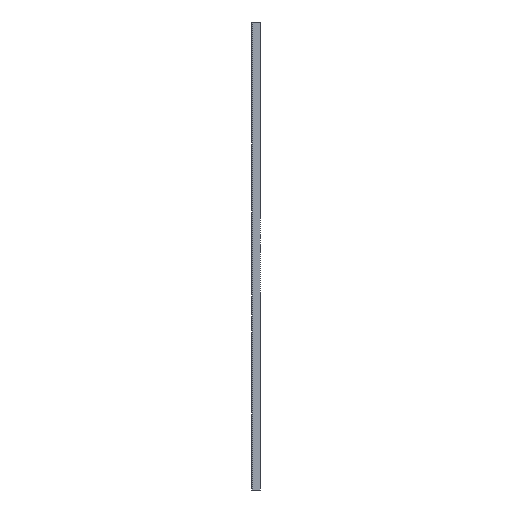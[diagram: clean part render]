
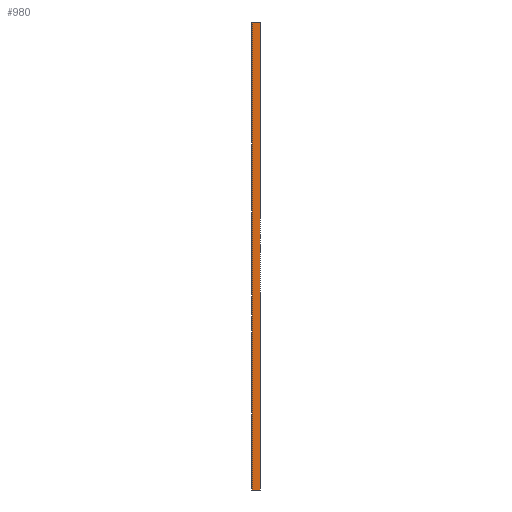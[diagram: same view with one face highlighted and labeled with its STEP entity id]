
A CAD part, left-side view. The second image highlights one B-rep face of the part: STEP entity #980.
In plain terms, the highlighted planar face has unit normal (-1, 0, 0).
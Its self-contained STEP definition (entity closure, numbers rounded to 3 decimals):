
#3 = AXIS2_PLACEMENT_3D ( 'NONE', #378, #111, #909 ) ;
#11 = CARTESIAN_POINT ( 'NONE',  ( -461.5, -20., 150. ) ) ;
#27 = CARTESIAN_POINT ( 'NONE',  ( -461.5, -20., -900. ) ) ;
#49 = FACE_OUTER_BOUND ( 'NONE', #331, .T. ) ;
#81 = VECTOR ( 'NONE', #359, 1000. ) ;
#111 = DIRECTION ( 'NONE',  ( -1., 0., 0. ) ) ;
#128 = CARTESIAN_POINT ( 'NONE',  ( -461.5, 0., 150. ) ) ;
#142 = VECTOR ( 'NONE', #880, 1000. ) ;
#145 = EDGE_CURVE ( 'NONE', #522, #338, #729, .T. ) ;
#183 = VERTEX_POINT ( 'NONE', #562 ) ;
#199 = DIRECTION ( 'NONE',  ( 0., 1., 0. ) ) ;
#286 = EDGE_CURVE ( 'NONE', #522, #183, #982, .T. ) ;
#328 = EDGE_CURVE ( 'NONE', #338, #1020, #693, .T. ) ;
#331 = EDGE_LOOP ( 'NONE', ( #868, #576, #580, #719 ) ) ;
#338 = VERTEX_POINT ( 'NONE', #884 ) ;
#359 = DIRECTION ( 'NONE',  ( 0., 1., 0. ) ) ;
#378 = CARTESIAN_POINT ( 'NONE',  ( -461.5, -20., -900. ) ) ;
#448 = VECTOR ( 'NONE', #199, 1000. ) ;
#472 = CARTESIAN_POINT ( 'NONE',  ( -461.5, -20., -900. ) ) ;
#522 = VERTEX_POINT ( 'NONE', #577 ) ;
#562 = CARTESIAN_POINT ( 'NONE',  ( -461.5, 0., -900. ) ) ;
#576 = ORIENTED_EDGE ( 'NONE', *, *, #286, .F. ) ;
#577 = CARTESIAN_POINT ( 'NONE',  ( -461.5, -20., -900. ) ) ;
#580 = ORIENTED_EDGE ( 'NONE', *, *, #145, .T. ) ;
#633 = CARTESIAN_POINT ( 'NONE',  ( -461.5, 0., -900. ) ) ;
#655 = VECTOR ( 'NONE', #987, 1000. ) ;
#693 = LINE ( 'NONE', #11, #81 ) ;
#719 = ORIENTED_EDGE ( 'NONE', *, *, #328, .T. ) ;
#729 = LINE ( 'NONE', #472, #655 ) ;
#868 = ORIENTED_EDGE ( 'NONE', *, *, #908, .F. ) ;
#880 = DIRECTION ( 'NONE',  ( 0., 0., 1. ) ) ;
#884 = CARTESIAN_POINT ( 'NONE',  ( -461.5, -20., 150. ) ) ;
#892 = LINE ( 'NONE', #633, #142 ) ;
#894 = PLANE ( 'NONE',  #3 ) ;
#908 = EDGE_CURVE ( 'NONE', #183, #1020, #892, .T. ) ;
#909 = DIRECTION ( 'NONE',  ( 0., 0., 1. ) ) ;
#980 = ADVANCED_FACE ( 'NONE', ( #49 ), #894, .T. ) ;
#982 = LINE ( 'NONE', #27, #448 ) ;
#987 = DIRECTION ( 'NONE',  ( 0., 0., 1. ) ) ;
#1020 = VERTEX_POINT ( 'NONE', #128 ) ;
